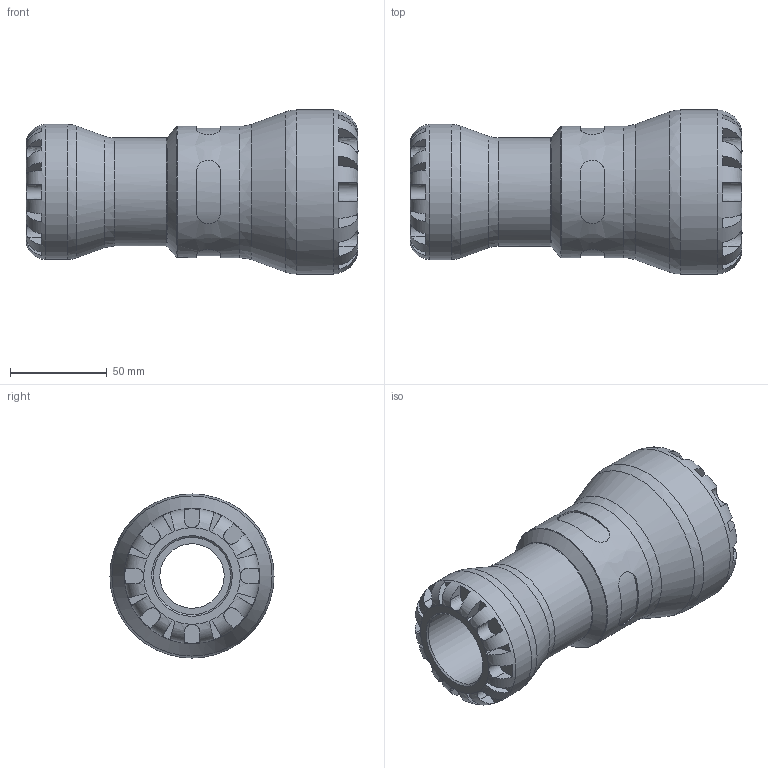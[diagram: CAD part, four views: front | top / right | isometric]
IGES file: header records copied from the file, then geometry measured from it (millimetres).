
Global section: file name: 151100050040; native system: Autodesk Inventor 2019; preprocessor: unknown; author: KIM; date: 20231017.194515; units: millimetre
Bounding box: 172 x 85 x 85 mm (x, y, z)
Volume: 378731.1 mm3; surface area: 72713.9 mm2
Topology: 1 solids, 1 shells, 172 faces, 465 edges, 300 vertices
Faces by surface type: bspline 172
